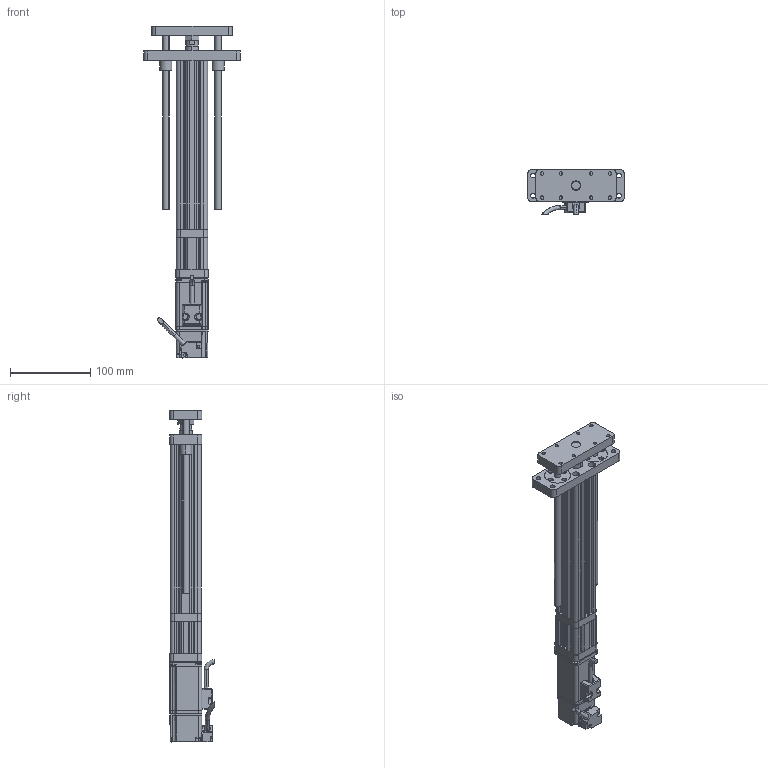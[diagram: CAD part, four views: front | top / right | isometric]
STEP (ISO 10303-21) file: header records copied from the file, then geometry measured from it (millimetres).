
FILE_DESCRIPTION (( 'STEP AP214' ), '1' );
FILE_NAME ('039-S150-D02-A-M3-C5-2.STEP', '2021-03-02T05:46:02', ( '' ), ( '' ), 'SwSTEP 2.0', 'SolidWorks 2018', '' );
FILE_SCHEMA (( 'AUTOMOTIVE_DESIGN' ));
Length unit declared in the file: millimetre
Products named in the file (12): CMC039-DT; CMC039-AZB; GB／T6172．1-2000六角薄螺母A级和B级M12; CMC039-GT; CMC039-FL; 039-S150-D02-A-M3-C5-2; CMC039-DZ; CMC039-DJZ; LME01-d8; CMC039-ZLLJB; CMC039-DB; ECMA-CX0401ES-40框號系列機種-100W低慣量系列
Assembly tree (13 placements, depth 2):
  039-S150-D02-A-M3-C5-2
    CMC039-GT
    CMC039-FL
    CMC039-DT
    LME01-d8  x2
    CMC039-DB
    GB／T6172．1-2000六角薄螺母A级和B级M12
    CMC039-DZ  x2
    CMC039-AZB
    CMC039-DJZ
    CMC039-ZLLJB
    ECMA-CX0401ES-40框號系列機種-100W低慣量系列
Bounding box: 120 x 55.39 x 413.6 mm (x, y, z)
Volume: 532680.9 mm3; surface area: 174013.3 mm2
Topology: 13 solids, 21 shells, 867 faces, 2244 edges, 1415 vertices
Faces by surface type: cylinder 384, plane 328, bspline 88, cone 67
Entity records: 32022 total; most frequent: CARTESIAN_POINT 11934, ORIENTED_EDGE 4230, DIRECTION 3647, EDGE_CURVE 2115, VERTEX_POINT 1356, AXIS2_PLACEMENT_3D 1292, LINE 1063, VECTOR 1063
